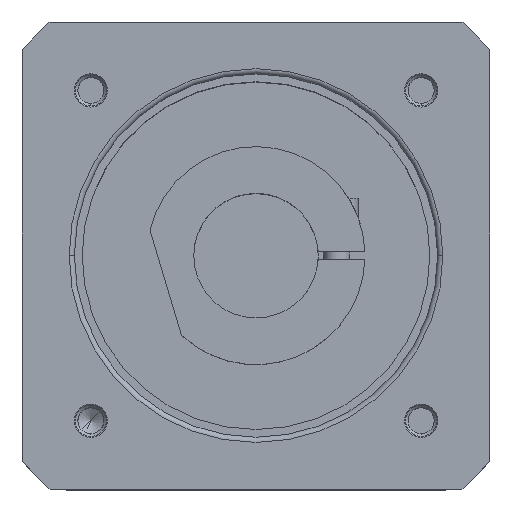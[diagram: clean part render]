
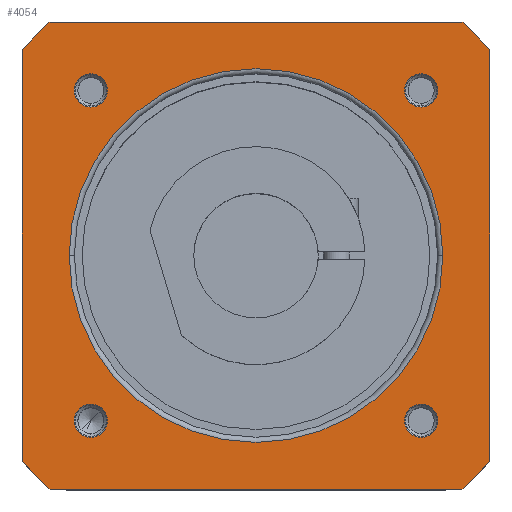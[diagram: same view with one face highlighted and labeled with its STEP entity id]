
A CAD part, top view. The second image highlights one B-rep face of the part: STEP entity #4054.
In plain terms, the highlighted planar face has unit normal (0, 0, 1) as drawn and (0, 1, 0) by its records, which use the part's own axes.
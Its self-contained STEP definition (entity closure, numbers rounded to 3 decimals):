
#2940=CARTESIAN_POINT('',(0.,51.,0.));
#2941=DIRECTION('',(0.,1.,0.));
#2942=DIRECTION('',(0.75,0.,-0.661));
#2943=AXIS2_PLACEMENT_3D('',#2940,#2941,#2942);
#2945=DIRECTION('',(0.,0.,-1.));
#2946=VECTOR('',#2945,79.373);
#2947=CARTESIAN_POINT('',(45.,51.,39.686));
#2948=LINE('',#2947,#2946);
#2949=CARTESIAN_POINT('',(0.,51.,0.));
#2950=DIRECTION('',(0.,1.,0.));
#2951=DIRECTION('',(0.661,0.,0.75));
#2952=AXIS2_PLACEMENT_3D('',#2949,#2950,#2951);
#2954=DIRECTION('',(1.,0.,0.));
#2955=VECTOR('',#2954,79.373);
#2956=CARTESIAN_POINT('',(-39.686,51.,45.));
#2957=LINE('',#2956,#2955);
#2958=CARTESIAN_POINT('',(0.,51.,0.));
#2959=DIRECTION('',(0.,1.,0.));
#2960=DIRECTION('',(-0.75,0.,0.661));
#2961=AXIS2_PLACEMENT_3D('',#2958,#2959,#2960);
#2963=DIRECTION('',(0.,0.,1.));
#2964=VECTOR('',#2963,79.373);
#2965=CARTESIAN_POINT('',(-45.,51.,-39.686));
#2966=LINE('',#2965,#2964);
#2967=CARTESIAN_POINT('',(0.,51.,0.));
#2968=DIRECTION('',(0.,1.,0.));
#2969=DIRECTION('',(-0.661,0.,-0.75));
#2970=AXIS2_PLACEMENT_3D('',#2967,#2968,#2969);
#2972=DIRECTION('',(-1.,0.,0.));
#2973=VECTOR('',#2972,79.373);
#2974=CARTESIAN_POINT('',(39.686,51.,-45.));
#2975=LINE('',#2974,#2973);
#2976=CARTESIAN_POINT('',(-31.82,51.,31.82));
#2977=DIRECTION('',(0.,-1.,0.));
#2978=DIRECTION('',(1.,0.,0.));
#2979=AXIS2_PLACEMENT_3D('',#2976,#2977,#2978);
#2986=CARTESIAN_POINT('',(-31.82,51.,31.82));
#2987=DIRECTION('',(0.,-1.,0.));
#2988=DIRECTION('',(-1.,0.,0.));
#2989=AXIS2_PLACEMENT_3D('',#2986,#2987,#2988);
#3022=CARTESIAN_POINT('',(-31.82,51.,-31.82));
#3023=DIRECTION('',(0.,-1.,0.));
#3024=DIRECTION('',(1.,0.,0.));
#3025=AXIS2_PLACEMENT_3D('',#3022,#3023,#3024);
#3032=CARTESIAN_POINT('',(-31.82,51.,-31.82));
#3033=DIRECTION('',(0.,-1.,0.));
#3034=DIRECTION('',(-1.,0.,0.));
#3035=AXIS2_PLACEMENT_3D('',#3032,#3033,#3034);
#3068=CARTESIAN_POINT('',(31.82,51.,-31.82));
#3069=DIRECTION('',(0.,-1.,0.));
#3070=DIRECTION('',(1.,0.,0.));
#3071=AXIS2_PLACEMENT_3D('',#3068,#3069,#3070);
#3078=CARTESIAN_POINT('',(31.82,51.,-31.82));
#3079=DIRECTION('',(0.,-1.,0.));
#3080=DIRECTION('',(-1.,0.,0.));
#3081=AXIS2_PLACEMENT_3D('',#3078,#3079,#3080);
#3436=CARTESIAN_POINT('',(31.82,51.,31.82));
#3437=DIRECTION('',(0.,-1.,0.));
#3438=DIRECTION('',(1.,0.,0.));
#3439=AXIS2_PLACEMENT_3D('',#3436,#3437,#3438);
#3446=CARTESIAN_POINT('',(31.82,51.,31.82));
#3447=DIRECTION('',(0.,-1.,0.));
#3448=DIRECTION('',(-1.,0.,0.));
#3449=AXIS2_PLACEMENT_3D('',#3446,#3447,#3448);
#3500=CARTESIAN_POINT('',(0.,51.,0.));
#3501=DIRECTION('',(0.,-1.,0.));
#3502=DIRECTION('',(0.,0.,1.));
#3503=AXIS2_PLACEMENT_3D('',#3500,#3501,#3502);
#3515=CARTESIAN_POINT('',(0.,51.,0.));
#3516=DIRECTION('',(0.,-1.,0.));
#3517=DIRECTION('',(0.,0.,-1.));
#3518=AXIS2_PLACEMENT_3D('',#3515,#3516,#3517);
#3670=CARTESIAN_POINT('',(45.,51.,-39.686));
#3671=CARTESIAN_POINT('',(39.686,51.,-45.));
#3672=VERTEX_POINT('',#3670);
#3673=VERTEX_POINT('',#3671);
#3674=CARTESIAN_POINT('',(-39.686,51.,-45.));
#3675=CARTESIAN_POINT('',(-45.,51.,-39.686));
#3676=VERTEX_POINT('',#3674);
#3677=VERTEX_POINT('',#3675);
#3678=CARTESIAN_POINT('',(-45.,51.,39.686));
#3679=CARTESIAN_POINT('',(-39.686,51.,45.));
#3680=VERTEX_POINT('',#3678);
#3681=VERTEX_POINT('',#3679);
#3682=CARTESIAN_POINT('',(39.686,51.,45.));
#3683=CARTESIAN_POINT('',(45.,51.,39.686));
#3684=VERTEX_POINT('',#3682);
#3685=VERTEX_POINT('',#3683);
#3728=CARTESIAN_POINT('',(35.02,51.,31.82));
#3729=CARTESIAN_POINT('',(28.62,51.,31.82));
#3730=VERTEX_POINT('',#3728);
#3731=VERTEX_POINT('',#3729);
#3736=CARTESIAN_POINT('',(-28.62,51.,31.82));
#3737=CARTESIAN_POINT('',(-35.02,51.,31.82));
#3738=VERTEX_POINT('',#3736);
#3739=VERTEX_POINT('',#3737);
#3744=CARTESIAN_POINT('',(-28.62,51.,-31.82));
#3745=CARTESIAN_POINT('',(-35.02,51.,-31.82));
#3746=VERTEX_POINT('',#3744);
#3747=VERTEX_POINT('',#3745);
#3752=CARTESIAN_POINT('',(35.02,51.,-31.82));
#3753=CARTESIAN_POINT('',(28.62,51.,-31.82));
#3754=VERTEX_POINT('',#3752);
#3755=VERTEX_POINT('',#3753);
#3792=CARTESIAN_POINT('',(0.,51.,36.));
#3793=CARTESIAN_POINT('',(0.,51.,-36.));
#3794=VERTEX_POINT('',#3792);
#3795=VERTEX_POINT('',#3793);
#4004=CARTESIAN_POINT('',(0.,51.,0.));
#4005=DIRECTION('',(0.,-1.,0.));
#4006=DIRECTION('',(-1.,0.,0.));
#4007=AXIS2_PLACEMENT_3D('',#4004,#4005,#4006);
#4008=PLANE('',#4007);
#4009=ORIENTED_EDGE('',*,*,#3966,.F.);
#4011=ORIENTED_EDGE('',*,*,#4010,.F.);
#4013=ORIENTED_EDGE('',*,*,#4012,.F.);
#4015=ORIENTED_EDGE('',*,*,#4014,.F.);
#4017=ORIENTED_EDGE('',*,*,#4016,.F.);
#4019=ORIENTED_EDGE('',*,*,#4018,.F.);
#4020=ORIENTED_EDGE('',*,*,#3981,.F.);
#4021=ORIENTED_EDGE('',*,*,#3991,.F.);
#4022=EDGE_LOOP('',(#4009,#4011,#4013,#4015,#4017,#4019,#4020,#4021));
#4023=FACE_OUTER_BOUND('',#4022,.F.);
#4025=ORIENTED_EDGE('',*,*,#4024,.F.);
#4027=ORIENTED_EDGE('',*,*,#4026,.F.);
#4028=EDGE_LOOP('',(#4025,#4027));
#4029=FACE_BOUND('',#4028,.F.);
#4031=ORIENTED_EDGE('',*,*,#4030,.F.);
#4033=ORIENTED_EDGE('',*,*,#4032,.F.);
#4034=EDGE_LOOP('',(#4031,#4033));
#4035=FACE_BOUND('',#4034,.F.);
#4037=ORIENTED_EDGE('',*,*,#4036,.F.);
#4039=ORIENTED_EDGE('',*,*,#4038,.F.);
#4040=EDGE_LOOP('',(#4037,#4039));
#4041=FACE_BOUND('',#4040,.F.);
#4043=ORIENTED_EDGE('',*,*,#4042,.F.);
#4045=ORIENTED_EDGE('',*,*,#4044,.F.);
#4046=EDGE_LOOP('',(#4043,#4045));
#4047=FACE_BOUND('',#4046,.F.);
#4049=ORIENTED_EDGE('',*,*,#4048,.F.);
#4051=ORIENTED_EDGE('',*,*,#4050,.F.);
#4052=EDGE_LOOP('',(#4049,#4051));
#4053=FACE_BOUND('',#4052,.F.);
#4054=ADVANCED_FACE('',(#4023,#4029,#4035,#4041,#4047,#4053),#4008,.F.);
#2944=CIRCLE('',#2943,60.);
#2953=CIRCLE('',#2952,60.);
#2962=CIRCLE('',#2961,60.);
#2971=CIRCLE('',#2970,60.);
#2980=CIRCLE('',#2979,3.2);
#2990=CIRCLE('',#2989,3.2);
#3026=CIRCLE('',#3025,3.2);
#3036=CIRCLE('',#3035,3.2);
#3072=CIRCLE('',#3071,3.2);
#3082=CIRCLE('',#3081,3.2);
#3440=CIRCLE('',#3439,3.2);
#3450=CIRCLE('',#3449,3.2);
#3504=CIRCLE('',#3503,36.);
#3519=CIRCLE('',#3518,36.);
#3966=EDGE_CURVE('',#3672,#3673,#2944,.T.);
#3981=EDGE_CURVE('',#3676,#3677,#2971,.T.);
#3991=EDGE_CURVE('',#3673,#3676,#2975,.T.);
#4010=EDGE_CURVE('',#3685,#3672,#2948,.T.);
#4012=EDGE_CURVE('',#3684,#3685,#2953,.T.);
#4014=EDGE_CURVE('',#3681,#3684,#2957,.T.);
#4016=EDGE_CURVE('',#3680,#3681,#2962,.T.);
#4018=EDGE_CURVE('',#3677,#3680,#2966,.T.);
#4024=EDGE_CURVE('',#3738,#3739,#2980,.T.);
#4026=EDGE_CURVE('',#3739,#3738,#2990,.T.);
#4030=EDGE_CURVE('',#3746,#3747,#3026,.T.);
#4032=EDGE_CURVE('',#3747,#3746,#3036,.T.);
#4036=EDGE_CURVE('',#3754,#3755,#3072,.T.);
#4038=EDGE_CURVE('',#3755,#3754,#3082,.T.);
#4042=EDGE_CURVE('',#3730,#3731,#3440,.T.);
#4044=EDGE_CURVE('',#3731,#3730,#3450,.T.);
#4048=EDGE_CURVE('',#3794,#3795,#3504,.T.);
#4050=EDGE_CURVE('',#3795,#3794,#3519,.T.);
